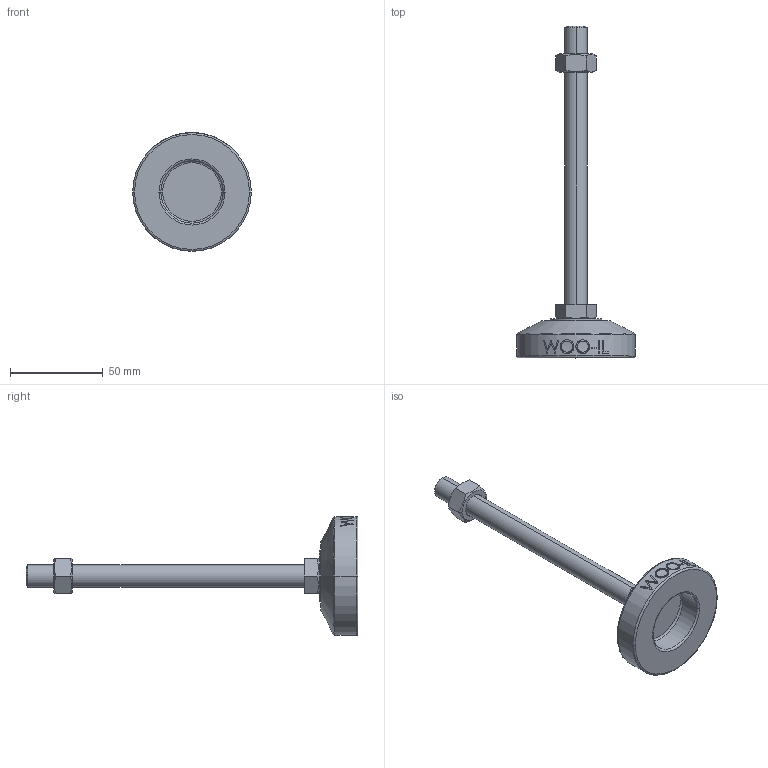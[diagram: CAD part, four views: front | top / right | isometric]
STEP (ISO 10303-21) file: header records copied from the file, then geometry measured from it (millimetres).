
FILE_DESCRIPTION (( 'STEP AP214' ), '1' );
FILE_NAME ('MFZ64-M12-150.step', '2021-01-15T07:05:26', ( '' ), ( '' ), 'SwSTEP 2.0', 'SolidWorks 2019', '' );
FILE_SCHEMA (( 'AUTOMOTIVE_DESIGN' ));
Length unit declared in the file: millimetre
Products named in the file (2): MFZ64-M12-150
Bounding box: 64 x 179 x 64 mm (x, y, z)
Volume: 67010.4 mm3; surface area: 18663.7 mm2
Topology: 3 solids, 3 shells, 106 faces, 243 edges, 154 vertices
Faces by surface type: plane 48, cylinder 18, bspline 16, cone 14, torus 10
Entity records: 4520 total; most frequent: CARTESIAN_POINT 2177, ORIENTED_EDGE 486, DIRECTION 439, EDGE_CURVE 243, AXIS2_PLACEMENT_3D 170, VERTEX_POINT 154, EDGE_LOOP 119, ADVANCED_FACE 106
